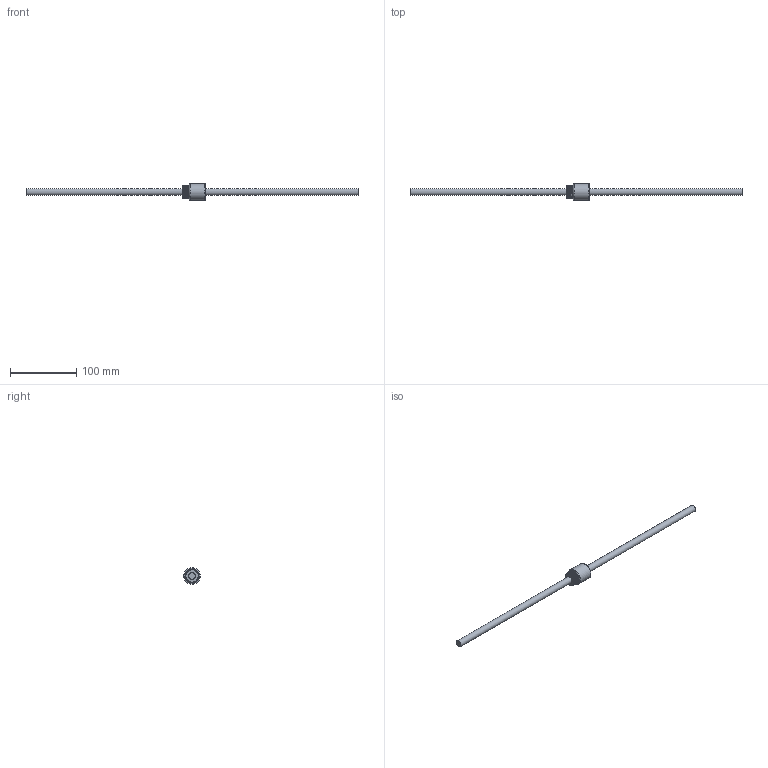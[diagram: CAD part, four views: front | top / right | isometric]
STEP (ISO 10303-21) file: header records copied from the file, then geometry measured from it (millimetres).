
FILE_DESCRIPTION (( 'STEP AP203' ), '1' );
FILE_NAME ('BSHR01004-2.5.step', '2024-05-31T07:16:37', ( '' ), ( '' ), 'SwSTEP 2.0', 'SolidWorks 2022', '' );
FILE_SCHEMA (( 'CONFIG_CONTROL_DESIGN' ));
Length unit declared in the file: millimetre
Products named in the file (1): BSHR01004-2.5
Bounding box: 500 x 25 x 25 mm (x, y, z)
Volume: 50588.9 mm3; surface area: 20653.1 mm2
Topology: 2 solids, 2 shells, 20 faces, 41 edges, 28 vertices
Faces by surface type: plane 7, cylinder 6, bspline 3, cone 2, torus 2
Full cylindrical faces by diameter (mm): 3 x1, 10 x1, 11.1 x1, 18 x1, 25 x1
Entity records: 2208 total; most frequent: CARTESIAN_POINT 1808, DIRECTION 62, ORIENTED_EDGE 54, EDGE_LOOP 32, AXIS2_PLACEMENT_3D 31, EDGE_CURVE 27, FACE_OUTER_BOUND 26, VERTEX_POINT 23
